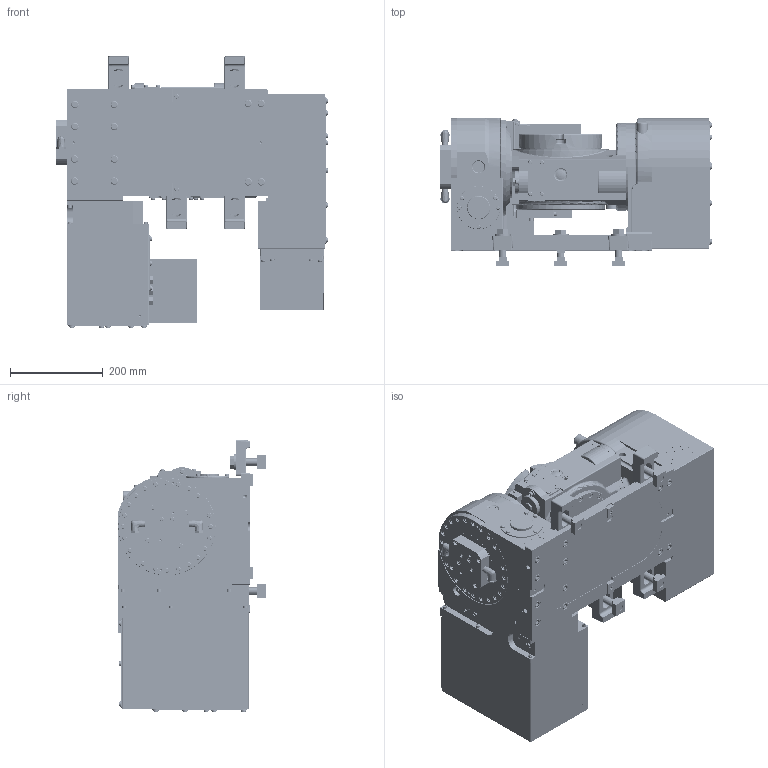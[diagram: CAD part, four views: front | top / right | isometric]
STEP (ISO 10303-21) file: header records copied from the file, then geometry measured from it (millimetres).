
FILE_DESCRIPTION (( 'STEP AP214' ), '1' );
FILE_NAME ('【掲載用】TT182付加軸RJ付.STEP', '2019-10-10T07:08:32', ( '' ), ( '' ), 'SwSTEP 2.0', 'SolidWorks 2017', '' );
FILE_SCHEMA (( 'AUTOMOTIVE_DESIGN' ));
Length unit declared in the file: millimetre
Products named in the file (24): SMC KQ2E06-02; コネクタカバー（61E3639910）; コネクタプレート（61E4465853）TB200A4F24; コネクタプレート(61E4571940); モータケース(61E281100)TT182BF-05; モータケース(61E252972)TT182B5-0; ケイシャモータクドウASSY(61E3817573)TT182B00_回転モデル; CLAMPING PARTS（61E424758）; TABLE_RJ(61E8445480)TT182B02; パッキングプレートPAD(61E4544200)TT182B00_回転モデル; スペーサ(61E4542521)RJ40F18T05; ササエPAD(61E3817482)TT182B00_回転モデル; カイテンバルブ(61E3554024)RJ40F_ポート無し; ケイシャホンタイASSY(61E2668341)TT182B02_回転モデル; アダプタ(61E385275)TT182B02; TABLE(61E8445480)TT182B02; 【掲載用】TT182付加軸RJ付; BODY_RJ(61E1113036)TT182B02; ブロック(61E3813474)RJ40FTT182; BODY(61E1113036)TT182B02; BASE_TT182BFR; RJ50TT182(61E3813754); スペーサ（61E4521020）MR200RAJ05; キタガワシール
Assembly tree (30 placements, depth 3):
  【掲載用】TT182付加軸RJ付
    BASE_TT182BFR
      ケイシャホンタイASSY(61E2668341)TT182B02_回転モデル
      ササエPAD(61E3817482)TT182B00_回転モデル
      パッキングプレートPAD(61E4544200)TT182B00_回転モデル
      ケイシャモータクドウASSY(61E3817573)TT182B00_回転モデル
      モータケース(61E252972)TT182B5-0
      モータケース(61E281100)TT182BF-05
      コネクタプレート(61E4571940)
      コネクタプレート（61E4465853）TB200A4F24
      コネクタカバー（61E3639910）  x2
      SMC KQ2E06-02  x3
      キタガワシール
      スペーサ（61E4521020）MR200RAJ05  x2
      RJ50TT182(61E3813754)
    BODY_RJ(61E1113036)TT182B02
      BODY(61E1113036)TT182B02
      ブロック(61E3813474)RJ40FTT182
    TABLE_RJ(61E8445480)TT182B02
      TABLE(61E8445480)TT182B02
      アダプタ(61E385275)TT182B02
      カイテンバルブ(61E3554024)RJ40F_ポート無し
      スペーサ(61E4542521)RJ40F18T05
    CLAMPING PARTS（61E424758）  x4
Bounding box: 587.8 x 318 x 586.8 mm (x, y, z)
Volume: 45027515.1 mm3; surface area: 2516096 mm2
Topology: 33 solids, 33 shells, 6399 faces, 15692 edges, 10083 vertices
Faces by surface type: plane 3903, cylinder 1622, cone 592, torus 203, bspline 75, sphere 4
Entity records: 219050 total; most frequent: CARTESIAN_POINT 36762, DIRECTION 30837, ORIENTED_EDGE 29868, EDGE_CURVE 14934, LINE 10631, VECTOR 10631, AXIS2_PLACEMENT_3D 10103, VERTEX_POINT 9665
